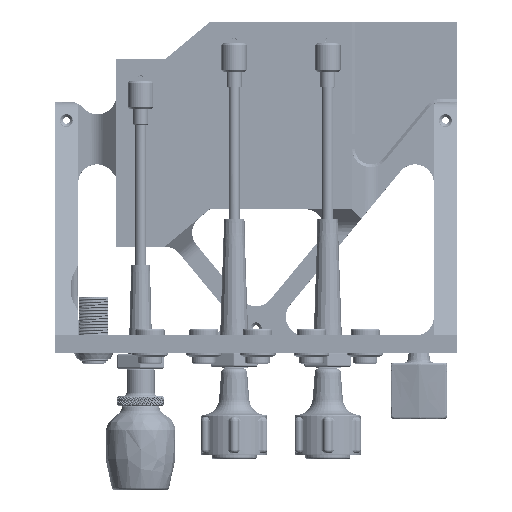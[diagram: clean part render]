
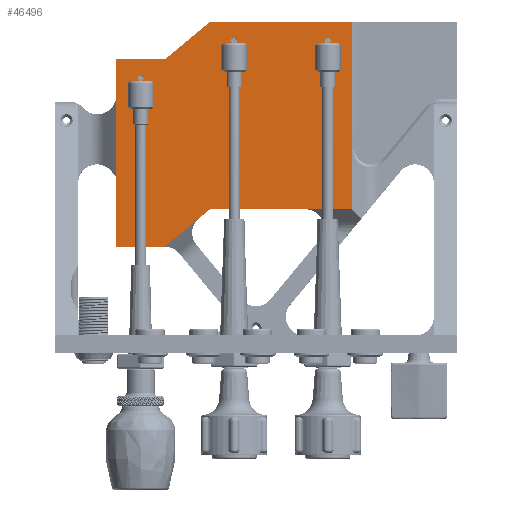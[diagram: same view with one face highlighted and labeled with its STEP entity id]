
A CAD part, top view. The second image highlights one B-rep face of the part: STEP entity #46496.
In plain terms, the highlighted planar face has unit normal (0, 0, 1).
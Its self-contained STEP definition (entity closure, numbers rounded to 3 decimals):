
#3145=LINE('',#152193,#4988);
#3273=LINE('',#152583,#5116);
#3285=LINE('',#152609,#5128);
#3291=LINE('',#152624,#5134);
#3315=LINE('',#152683,#5158);
#3318=LINE('',#152688,#5161);
#3320=LINE('',#152692,#5163);
#3322=LINE('',#152695,#5165);
#3323=LINE('',#152699,#5166);
#3326=LINE('',#152704,#5169);
#3328=LINE('',#152708,#5171);
#3330=LINE('',#152711,#5173);
#3335=LINE('',#152731,#5178);
#3338=LINE('',#152736,#5181);
#3340=LINE('',#152740,#5183);
#3342=LINE('',#152743,#5185);
#3345=LINE('',#152753,#5188);
#3347=LINE('',#152757,#5190);
#3349=LINE('',#152761,#5192);
#3353=LINE('',#152773,#5196);
#4988=VECTOR('',#56032,10.);
#5116=VECTOR('',#56320,10.);
#5128=VECTOR('',#56348,10.);
#5134=VECTOR('',#56368,10.);
#5158=VECTOR('',#56416,10.);
#5161=VECTOR('',#56421,10.);
#5163=VECTOR('',#56425,10.);
#5165=VECTOR('',#56429,10.);
#5166=VECTOR('',#56432,10.);
#5169=VECTOR('',#56437,10.);
#5171=VECTOR('',#56441,10.);
#5173=VECTOR('',#56445,10.);
#5178=VECTOR('',#56468,10.);
#5181=VECTOR('',#56473,10.);
#5183=VECTOR('',#56477,10.);
#5185=VECTOR('',#56481,10.);
#5188=VECTOR('',#56494,10.);
#5190=VECTOR('',#56498,10.);
#5192=VECTOR('',#56502,10.);
#5196=VECTOR('',#56522,10.);
#10527=FACE_BOUND('',#16516,.T.);
#10528=FACE_BOUND('',#16517,.T.);
#10529=FACE_BOUND('',#16518,.T.);
#10530=FACE_BOUND('',#16519,.T.);
#10531=FACE_BOUND('',#16520,.T.);
#10532=FACE_BOUND('',#16521,.T.);
#10533=FACE_BOUND('',#16522,.T.);
#10534=FACE_BOUND('',#16523,.T.);
#10535=FACE_BOUND('',#16524,.T.);
#13383=FACE_OUTER_BOUND('',#16515,.T.);
#16515=EDGE_LOOP('',(#42550,#42551,#42552,#42553,#42554,#42555,#42556,#42557));
#16516=EDGE_LOOP('',(#42558));
#16517=EDGE_LOOP('',(#42559));
#16518=EDGE_LOOP('',(#42560,#42561,#42562,#42563));
#16519=EDGE_LOOP('',(#42564));
#16520=EDGE_LOOP('',(#42565));
#16521=EDGE_LOOP('',(#42566,#42567,#42568,#42569));
#16522=EDGE_LOOP('',(#42570));
#16523=EDGE_LOOP('',(#42571,#42572,#42573,#42574));
#16524=EDGE_LOOP('',(#42575));
#17698=CIRCLE('',#49368,1.6);
#17699=CIRCLE('',#49370,1.6);
#17700=CIRCLE('',#49372,1.6);
#17701=CIRCLE('',#49374,1.6);
#17702=CIRCLE('',#49380,1.6);
#17703=CIRCLE('',#49382,1.6);
#21697=VERTEX_POINT('',#152190);
#21698=VERTEX_POINT('',#152192);
#21828=VERTEX_POINT('',#152582);
#21833=VERTEX_POINT('',#152606);
#21834=VERTEX_POINT('',#152608);
#21836=VERTEX_POINT('',#152623);
#21858=VERTEX_POINT('',#152681);
#21859=VERTEX_POINT('',#152682);
#21860=VERTEX_POINT('',#152687);
#21861=VERTEX_POINT('',#152691);
#21862=VERTEX_POINT('',#152697);
#21863=VERTEX_POINT('',#152698);
#21864=VERTEX_POINT('',#152703);
#21865=VERTEX_POINT('',#152707);
#21866=VERTEX_POINT('',#152713);
#21867=VERTEX_POINT('',#152717);
#21868=VERTEX_POINT('',#152721);
#21869=VERTEX_POINT('',#152725);
#21870=VERTEX_POINT('',#152729);
#21871=VERTEX_POINT('',#152730);
#21872=VERTEX_POINT('',#152735);
#21873=VERTEX_POINT('',#152739);
#21874=VERTEX_POINT('',#152745);
#21875=VERTEX_POINT('',#152749);
#21876=VERTEX_POINT('',#152755);
#21877=VERTEX_POINT('',#152759);
#28542=EDGE_CURVE('',#21697,#21698,#3145,.T.);
#28717=EDGE_CURVE('',#21698,#21828,#3273,.T.);
#28732=EDGE_CURVE('',#21834,#21833,#3285,.T.);
#28740=EDGE_CURVE('',#21836,#21828,#3291,.T.);
#28770=EDGE_CURVE('',#21858,#21859,#3315,.T.);
#28773=EDGE_CURVE('',#21860,#21858,#3318,.T.);
#28775=EDGE_CURVE('',#21861,#21860,#3320,.T.);
#28777=EDGE_CURVE('',#21859,#21861,#3322,.T.);
#28778=EDGE_CURVE('',#21862,#21863,#3323,.T.);
#28781=EDGE_CURVE('',#21864,#21862,#3326,.T.);
#28783=EDGE_CURVE('',#21865,#21864,#3328,.T.);
#28785=EDGE_CURVE('',#21863,#21865,#3330,.T.);
#28787=EDGE_CURVE('',#21866,#21866,#17698,.T.);
#28789=EDGE_CURVE('',#21867,#21867,#17699,.T.);
#28791=EDGE_CURVE('',#21868,#21868,#17700,.T.);
#28793=EDGE_CURVE('',#21869,#21869,#17701,.T.);
#28794=EDGE_CURVE('',#21870,#21871,#3335,.T.);
#28797=EDGE_CURVE('',#21872,#21870,#3338,.T.);
#28799=EDGE_CURVE('',#21873,#21872,#3340,.T.);
#28801=EDGE_CURVE('',#21871,#21873,#3342,.T.);
#28803=EDGE_CURVE('',#21874,#21874,#17702,.T.);
#28805=EDGE_CURVE('',#21875,#21875,#17703,.T.);
#28806=EDGE_CURVE('',#21833,#21836,#3345,.T.);
#28808=EDGE_CURVE('',#21876,#21834,#3347,.T.);
#28810=EDGE_CURVE('',#21876,#21877,#3349,.T.);
#28814=EDGE_CURVE('',#21877,#21697,#3353,.T.);
#42550=ORIENTED_EDGE('',*,*,#28810,.F.);
#42551=ORIENTED_EDGE('',*,*,#28808,.T.);
#42552=ORIENTED_EDGE('',*,*,#28732,.T.);
#42553=ORIENTED_EDGE('',*,*,#28806,.T.);
#42554=ORIENTED_EDGE('',*,*,#28740,.T.);
#42555=ORIENTED_EDGE('',*,*,#28717,.F.);
#42556=ORIENTED_EDGE('',*,*,#28542,.F.);
#42557=ORIENTED_EDGE('',*,*,#28814,.F.);
#42558=ORIENTED_EDGE('',*,*,#28791,.F.);
#42559=ORIENTED_EDGE('',*,*,#28789,.F.);
#42560=ORIENTED_EDGE('',*,*,#28785,.F.);
#42561=ORIENTED_EDGE('',*,*,#28778,.F.);
#42562=ORIENTED_EDGE('',*,*,#28781,.F.);
#42563=ORIENTED_EDGE('',*,*,#28783,.F.);
#42564=ORIENTED_EDGE('',*,*,#28803,.F.);
#42565=ORIENTED_EDGE('',*,*,#28793,.F.);
#42566=ORIENTED_EDGE('',*,*,#28777,.F.);
#42567=ORIENTED_EDGE('',*,*,#28770,.F.);
#42568=ORIENTED_EDGE('',*,*,#28773,.F.);
#42569=ORIENTED_EDGE('',*,*,#28775,.F.);
#42570=ORIENTED_EDGE('',*,*,#28805,.F.);
#42571=ORIENTED_EDGE('',*,*,#28801,.F.);
#42572=ORIENTED_EDGE('',*,*,#28794,.F.);
#42573=ORIENTED_EDGE('',*,*,#28797,.F.);
#42574=ORIENTED_EDGE('',*,*,#28799,.F.);
#42575=ORIENTED_EDGE('',*,*,#28787,.F.);
#43597=PLANE('',#49394);
#46496=ADVANCED_FACE('',(#13383,#10527,#10528,#10529,#10530,#10531,#10532,
#10533,#10534,#10535),#43597,.F.);
#49368=AXIS2_PLACEMENT_3D('',#152715,#56449,#56450);
#49370=AXIS2_PLACEMENT_3D('',#152719,#56454,#56455);
#49372=AXIS2_PLACEMENT_3D('',#152723,#56459,#56460);
#49374=AXIS2_PLACEMENT_3D('',#152727,#56464,#56465);
#49380=AXIS2_PLACEMENT_3D('',#152747,#56485,#56486);
#49382=AXIS2_PLACEMENT_3D('',#152751,#56490,#56491);
#49394=AXIS2_PLACEMENT_3D('',#152774,#56523,#56524);
#56032=DIRECTION('',(0.,-1.,0.));
#56320=DIRECTION('',(-1.,0.,0.));
#56348=DIRECTION('',(0.,-1.,0.));
#56368=DIRECTION('',(0.768,0.64,0.));
#56416=DIRECTION('',(1.,0.,0.));
#56421=DIRECTION('',(0.,-1.,0.));
#56425=DIRECTION('',(-1.,0.,0.));
#56429=DIRECTION('',(0.,1.,0.));
#56432=DIRECTION('',(1.,0.,0.));
#56437=DIRECTION('',(0.,-1.,0.));
#56441=DIRECTION('',(-1.,0.,0.));
#56445=DIRECTION('',(0.,1.,0.));
#56449=DIRECTION('center_axis',(0.,0.,1.));
#56450=DIRECTION('ref_axis',(1.,0.,0.));
#56454=DIRECTION('center_axis',(0.,0.,1.));
#56455=DIRECTION('ref_axis',(1.,0.,0.));
#56459=DIRECTION('center_axis',(0.,0.,1.));
#56460=DIRECTION('ref_axis',(1.,0.,0.));
#56464=DIRECTION('center_axis',(0.,0.,1.));
#56465=DIRECTION('ref_axis',(1.,0.,0.));
#56468=DIRECTION('',(0.,-1.,0.));
#56473=DIRECTION('',(-1.,0.,0.));
#56477=DIRECTION('',(0.,1.,0.));
#56481=DIRECTION('',(1.,0.,0.));
#56485=DIRECTION('center_axis',(0.,0.,1.));
#56486=DIRECTION('ref_axis',(1.,0.,0.));
#56490=DIRECTION('center_axis',(0.,0.,1.));
#56491=DIRECTION('ref_axis',(1.,0.,0.));
#56494=DIRECTION('',(1.,0.,0.));
#56498=DIRECTION('',(-1.,0.,0.));
#56502=DIRECTION('',(0.768,0.64,0.));
#56522=DIRECTION('',(1.,0.,0.));
#56523=DIRECTION('center_axis',(0.,0.,-1.));
#56524=DIRECTION('ref_axis',(1.,0.,0.));
#152190=CARTESIAN_POINT('',(51.333,176.5,-34.325));
#152192=CARTESIAN_POINT('',(51.333,76.5,-34.325));
#152193=CARTESIAN_POINT('',(51.333,176.5,-34.325));
#152582=CARTESIAN_POINT('',(-24.667,76.5,-34.325));
#152583=CARTESIAN_POINT('',(51.333,76.5,-34.325));
#152606=CARTESIAN_POINT('',(-74.667,56.5,-34.325));
#152608=CARTESIAN_POINT('',(-74.667,156.5,-34.325));
#152609=CARTESIAN_POINT('',(-74.667,156.5,-34.325));
#152623=CARTESIAN_POINT('',(-48.667,56.5,-34.325));
#152624=CARTESIAN_POINT('',(-48.667,56.5,-34.325));
#152681=CARTESIAN_POINT('',(-63.167,71.5,-34.325));
#152682=CARTESIAN_POINT('',(-60.167,71.5,-34.325));
#152683=CARTESIAN_POINT('',(-60.167,71.5,-34.325));
#152687=CARTESIAN_POINT('',(-63.167,141.5,-34.325));
#152688=CARTESIAN_POINT('',(-63.167,71.5,-34.325));
#152691=CARTESIAN_POINT('',(-60.167,141.5,-34.325));
#152692=CARTESIAN_POINT('',(-63.167,141.5,-34.325));
#152695=CARTESIAN_POINT('',(-60.167,141.5,-34.325));
#152697=CARTESIAN_POINT('',(-13.167,91.5,-34.325));
#152698=CARTESIAN_POINT('',(-10.167,91.5,-34.325));
#152699=CARTESIAN_POINT('',(-10.167,91.5,-34.325));
#152703=CARTESIAN_POINT('',(-13.167,161.5,-34.325));
#152704=CARTESIAN_POINT('',(-13.167,91.5,-34.325));
#152707=CARTESIAN_POINT('',(-10.167,161.5,-34.325));
#152708=CARTESIAN_POINT('',(-13.167,161.5,-34.325));
#152711=CARTESIAN_POINT('',(-10.167,161.5,-34.325));
#152713=CARTESIAN_POINT('',(36.733,86.5,-34.325));
#152715=CARTESIAN_POINT('Origin',(38.333,86.5,-34.325));
#152717=CARTESIAN_POINT('',(-13.267,166.5,-34.325));
#152719=CARTESIAN_POINT('Origin',(-11.667,166.5,-34.325));
#152721=CARTESIAN_POINT('',(-13.267,86.5,-34.325));
#152723=CARTESIAN_POINT('Origin',(-11.667,86.5,-34.325));
#152725=CARTESIAN_POINT('',(-63.267,66.5,-34.325));
#152727=CARTESIAN_POINT('Origin',(-61.667,66.5,-34.325));
#152729=CARTESIAN_POINT('',(36.833,161.5,-34.325));
#152730=CARTESIAN_POINT('',(36.833,91.5,-34.325));
#152731=CARTESIAN_POINT('',(36.833,161.5,-34.325));
#152735=CARTESIAN_POINT('',(39.833,161.5,-34.325));
#152736=CARTESIAN_POINT('',(39.833,161.5,-34.325));
#152739=CARTESIAN_POINT('',(39.833,91.5,-34.325));
#152740=CARTESIAN_POINT('',(39.833,91.5,-34.325));
#152743=CARTESIAN_POINT('',(36.833,91.5,-34.325));
#152745=CARTESIAN_POINT('',(-63.267,146.5,-34.325));
#152747=CARTESIAN_POINT('Origin',(-61.667,146.5,-34.325));
#152749=CARTESIAN_POINT('',(36.733,166.5,-34.325));
#152751=CARTESIAN_POINT('Origin',(38.333,166.5,-34.325));
#152753=CARTESIAN_POINT('',(-74.667,56.5,-34.325));
#152755=CARTESIAN_POINT('',(-48.667,156.5,-34.325));
#152757=CARTESIAN_POINT('',(-48.667,156.5,-34.325));
#152759=CARTESIAN_POINT('',(-24.667,176.5,-34.325));
#152761=CARTESIAN_POINT('',(-48.667,156.5,-34.325));
#152773=CARTESIAN_POINT('',(-24.667,176.5,-34.325));
#152774=CARTESIAN_POINT('Origin',(-11.667,116.5,-34.325));
